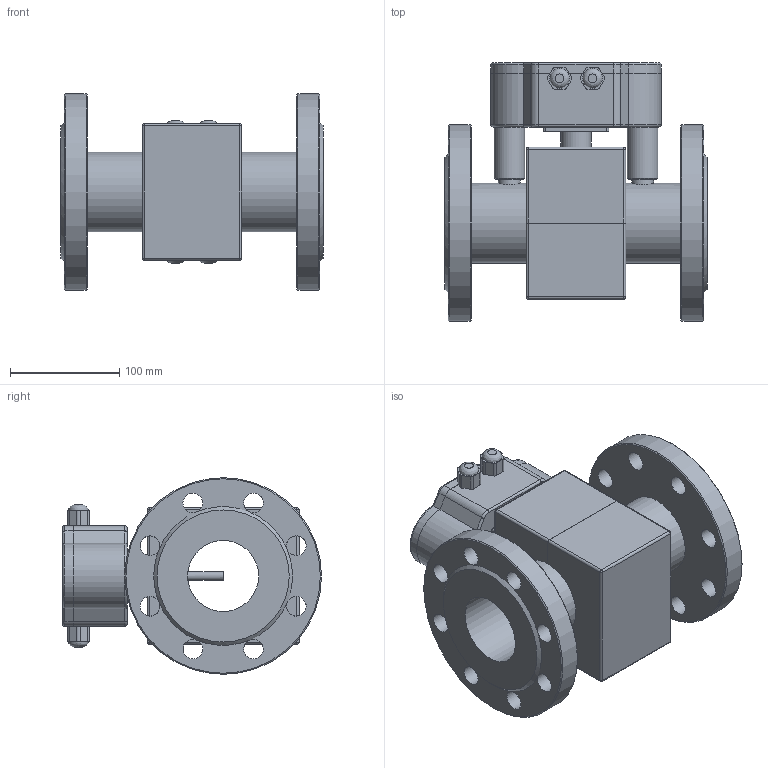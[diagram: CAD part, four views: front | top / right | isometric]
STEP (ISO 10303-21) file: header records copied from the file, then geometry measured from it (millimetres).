
FILE_DESCRIPTION(('STEP AP214'), '1');
FILE_NAME('65 È6', '2015-07-24T11:41:31', (''), (''), 'ASCON STEP Converter 1.3', 'ASCON Math Kernel', '');
FILE_SCHEMA(('AUTOMOTIVE_DESIGN { 1 0 10303 214 3 1 1}'));
Length unit declared in the file: millimetre
Products named in the file (1): 5
Bounding box: 240 x 237 x 180 mm (x, y, z)
Volume: 3048751.8 mm3; surface area: 351358.5 mm2
Topology: 2 solids, 2 shells, 511 faces, 1415 edges, 910 vertices
Faces by surface type: cylinder 273, plane 202, torus 12, cone 12, sphere 8, bspline 4
Full cylindrical faces by diameter (mm): 3.24 x4, 7 x4, 8 x1, 18 x16, 20 x2, 28 x3, 65 x1, 73 x2, 180 x2
Entity records: 21236 total; most frequent: CARTESIAN_POINT 4043, DIRECTION 2966, ORIENTED_EDGE 2704, EDGE_CURVE 1352, AXIS2_PLACEMENT_3D 1129, VERTEX_POINT 910, LINE 708, VECTOR 708
